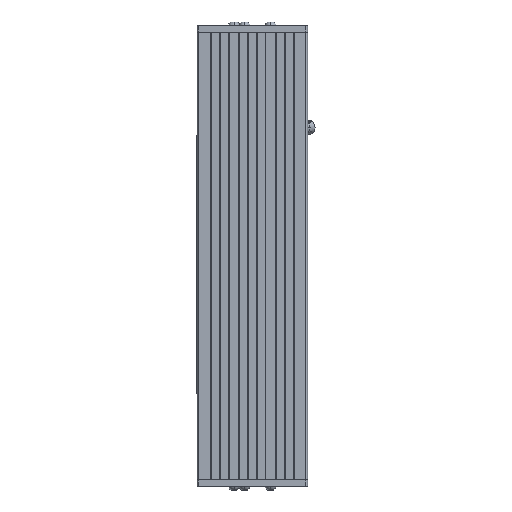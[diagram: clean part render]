
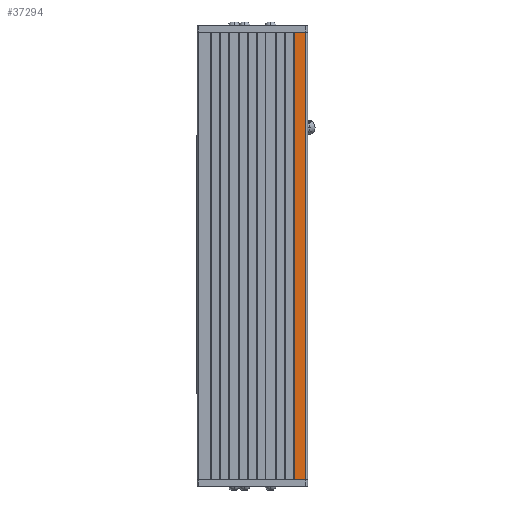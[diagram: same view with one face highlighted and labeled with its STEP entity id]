
A CAD part, front view. The second image highlights one B-rep face of the part: STEP entity #37294.
In plain terms, the highlighted planar face has unit normal (0, -1, 0).
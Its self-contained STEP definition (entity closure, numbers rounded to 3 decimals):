
#607 = EDGE_CURVE ( 'NONE', #5635, #5590, #16789, .T. ) ;
#661 = EDGE_CURVE ( 'NONE', #5583, #5579, #16873, .T. ) ;
#5027 = AXIS2_PLACEMENT_3D ( 'NONE', #27864, #27865, #27866 ) ;
#5579 = VERTEX_POINT ( 'NONE', #18393 ) ;
#5583 = VERTEX_POINT ( 'NONE', #18397 ) ;
#5590 = VERTEX_POINT ( 'NONE', #18404 ) ;
#5635 = VERTEX_POINT ( 'NONE', #18449 ) ;
#15936 = FACE_OUTER_BOUND ( 'NONE', #37568, .T. ) ;
#16789 = LINE ( 'NONE', #34705, #16790 ) ;
#16790 = VECTOR ( 'NONE', #34706, 1000. ) ;
#16873 = LINE ( 'NONE', #34836, #16875 ) ;
#16875 = VECTOR ( 'NONE', #34837, 1000. ) ;
#18393 = CARTESIAN_POINT ( 'NONE',  ( 66.574, -36.746, 0. ) ) ;
#18397 = CARTESIAN_POINT ( 'NONE',  ( 52.074, -36.746, 0. ) ) ;
#18404 = CARTESIAN_POINT ( 'NONE',  ( 66.574, -36.746, 548. ) ) ;
#18449 = CARTESIAN_POINT ( 'NONE',  ( 52.074, -36.746, 548. ) ) ;
#19687 = CARTESIAN_POINT ( 'NONE',  ( 52.074, -36.746, 548. ) ) ;
#19688 = DIRECTION ( 'NONE',  ( 0., 0., -1. ) ) ;
#19689 = CARTESIAN_POINT ( 'NONE',  ( 66.574, -36.746, 548. ) ) ;
#19690 = DIRECTION ( 'NONE',  ( 0., 0., 1. ) ) ;
#21812 = ORIENTED_EDGE ( 'NONE', *, *, #30536, .T. ) ;
#21813 = ORIENTED_EDGE ( 'NONE', *, *, #607, .F. ) ;
#21814 = ORIENTED_EDGE ( 'NONE', *, *, #30537, .T. ) ;
#21815 = ORIENTED_EDGE ( 'NONE', *, *, #661, .T. ) ;
#27863 = PLANE ( 'NONE',  #5027 ) ;
#27864 = CARTESIAN_POINT ( 'NONE',  ( 52.074, -36.746, 548. ) ) ;
#27865 = DIRECTION ( 'NONE',  ( 0., 1., 0. ) ) ;
#27866 = DIRECTION ( 'NONE',  ( 0., 0., 1. ) ) ;
#30536 = EDGE_CURVE ( 'NONE', #5635, #5583, #33277, .T. ) ;
#30537 = EDGE_CURVE ( 'NONE', #5579, #5590, #33279, .T. ) ;
#33277 = LINE ( 'NONE', #19687, #33278 ) ;
#33278 = VECTOR ( 'NONE', #19688, 1000. ) ;
#33279 = LINE ( 'NONE', #19689, #33280 ) ;
#33280 = VECTOR ( 'NONE', #19690, 1000. ) ;
#34705 = CARTESIAN_POINT ( 'NONE',  ( 52.074, -36.746, 548. ) ) ;
#34706 = DIRECTION ( 'NONE',  ( 1., 0., 0. ) ) ;
#34836 = CARTESIAN_POINT ( 'NONE',  ( 52.074, -36.746, 0. ) ) ;
#34837 = DIRECTION ( 'NONE',  ( 1., 0., 0. ) ) ;
#37294 = ADVANCED_FACE ( 'NONE', ( #15936 ), #27863, .F. ) ;
#37568 = EDGE_LOOP ( 'NONE', ( #21815, #21814, #21813, #21812 ) ) ;
